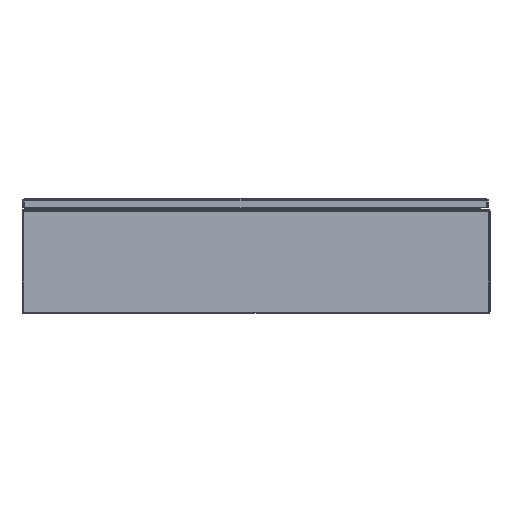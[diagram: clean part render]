
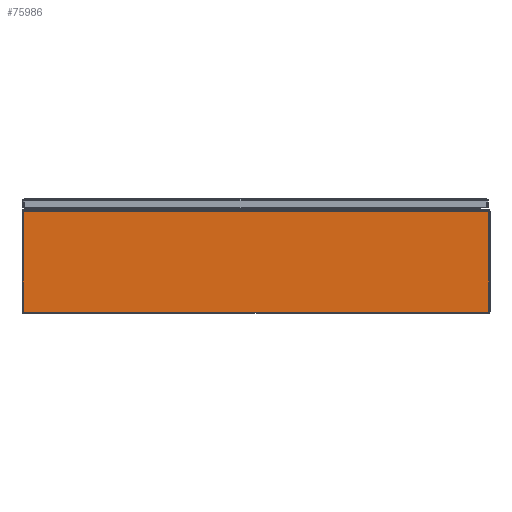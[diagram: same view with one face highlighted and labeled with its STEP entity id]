
A CAD part, front view. The second image highlights one B-rep face of the part: STEP entity #75986.
In plain terms, the highlighted planar face has unit normal (0, -1, 0).
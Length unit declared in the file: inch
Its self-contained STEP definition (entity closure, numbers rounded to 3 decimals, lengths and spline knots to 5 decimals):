
#6436 = DIRECTION ( 'NONE',  ( 0., 0., -1. ) ) ;
#6439 = CARTESIAN_POINT ( 'NONE',  ( 17.921, 0., 0.08 ) ) ;
#6445 = DIRECTION ( 'NONE',  ( -1., 0., 0. ) ) ;
#6446 = CARTESIAN_POINT ( 'NONE',  ( 18., 0., 7.838 ) ) ;
#6689 = DIRECTION ( 'NONE',  ( 0., 0., -1. ) ) ;
#6693 = CARTESIAN_POINT ( 'NONE',  ( -17.921, 0., 8.569 ) ) ;
#6852 = DIRECTION ( 'NONE',  ( -1., 0., 0. ) ) ;
#6859 = CARTESIAN_POINT ( 'NONE',  ( 18., 0., 0.08 ) ) ;
#8579 = VERTEX_POINT ( 'NONE', #45331 ) ;
#9153 = VERTEX_POINT ( 'NONE', #45231 ) ;
#10594 = EDGE_LOOP ( 'NONE', ( #48312, #48316, #48164, #48160 ) ) ;
#10625 = VERTEX_POINT ( 'NONE', #46817 ) ;
#10806 = VERTEX_POINT ( 'NONE', #46248 ) ;
#16479 = EDGE_CURVE ( 'NONE', #10806, #9153, #49643, .T. ) ;
#16482 = EDGE_CURVE ( 'NONE', #8579, #9153, #49652, .T. ) ;
#16487 = EDGE_CURVE ( 'NONE', #10625, #8579, #49655, .T. ) ;
#16488 = EDGE_CURVE ( 'NONE', #10625, #10806, #49656, .T. ) ;
#31489 = AXIS2_PLACEMENT_3D ( 'NONE', #55072, #55077, #55078 ) ;
#45088 = FACE_OUTER_BOUND ( 'NONE', #10594, .T. ) ;
#45231 = CARTESIAN_POINT ( 'NONE',  ( -17.921, 0., 0.08 ) ) ;
#45331 = CARTESIAN_POINT ( 'NONE',  ( -17.921, 0., 7.838 ) ) ;
#46248 = CARTESIAN_POINT ( 'NONE',  ( 17.921, 0., 0.08 ) ) ;
#46817 = CARTESIAN_POINT ( 'NONE',  ( 17.921, 0., 7.838 ) ) ;
#48160 = ORIENTED_EDGE ( 'NONE', *, *, #16482, .T. ) ;
#48164 = ORIENTED_EDGE ( 'NONE', *, *, #16487, .T. ) ;
#48312 = ORIENTED_EDGE ( 'NONE', *, *, #16479, .F. ) ;
#48316 = ORIENTED_EDGE ( 'NONE', *, *, #16488, .F. ) ;
#49643 = LINE ( 'NONE', #6859, #49644 ) ;
#49644 = VECTOR ( 'NONE', #6852, 39.37008 ) ;
#49648 = VECTOR ( 'NONE', #6445, 39.37008 ) ;
#49652 = LINE ( 'NONE', #6693, #49653 ) ;
#49653 = VECTOR ( 'NONE', #6689, 39.37008 ) ;
#49655 = LINE ( 'NONE', #6446, #49648 ) ;
#49656 = LINE ( 'NONE', #6439, #49657 ) ;
#49657 = VECTOR ( 'NONE', #6436, 39.37008 ) ;
#55072 = CARTESIAN_POINT ( 'NONE',  ( 18., 0., 0.08 ) ) ;
#55074 = PLANE ( 'NONE',  #31489 ) ;
#55077 = DIRECTION ( 'NONE',  ( 0., -1., 0. ) ) ;
#55078 = DIRECTION ( 'NONE',  ( 0., 0., -1. ) ) ;
#75986 = ADVANCED_FACE ( 'NONE', ( #45088 ), #55074, .T. ) ;
